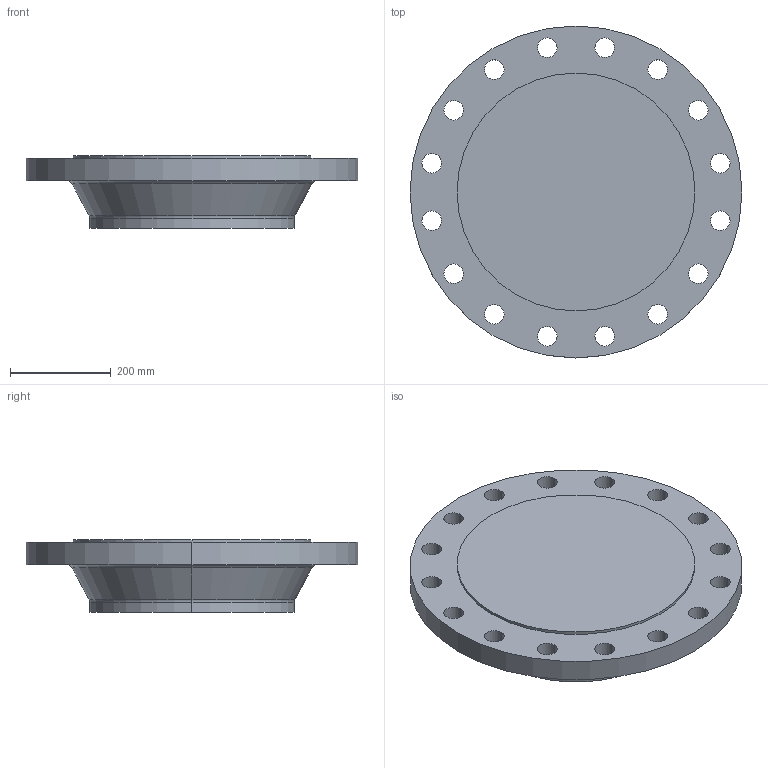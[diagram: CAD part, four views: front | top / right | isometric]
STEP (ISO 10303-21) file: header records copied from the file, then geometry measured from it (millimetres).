
FILE_DESCRIPTION (( 'STEP AP214' ), '1' );
FILE_NAME ('PN40 DN400 Type 21(ii) - Type E Face.STEP', '2019-01-05T23:10:41', ( '' ), ( '' ), 'SwSTEP 2.0', 'SolidWorks 2019', '' );
FILE_SCHEMA (( 'AUTOMOTIVE_DESIGN' ));
Length unit declared in the file: millimetre
Products named in the file (1): PN40 DN400 Type 21(ii) - Type E Face
Bounding box: 660 x 660 x 145 mm (x, y, z)
Volume: 29564385 mm3; surface area: 921002 mm2
Topology: 1 solids, 1 shells, 48 faces, 126 edges, 82 vertices
Faces by surface type: cylinder 38, torus 4, plane 4, cone 2
Entity records: 1626 total; most frequent: DIRECTION 310, CARTESIAN_POINT 257, ORIENTED_EDGE 252, AXIS2_PLACEMENT_3D 135, EDGE_CURVE 126, CIRCLE 86, VERTEX_POINT 82, EDGE_LOOP 82
